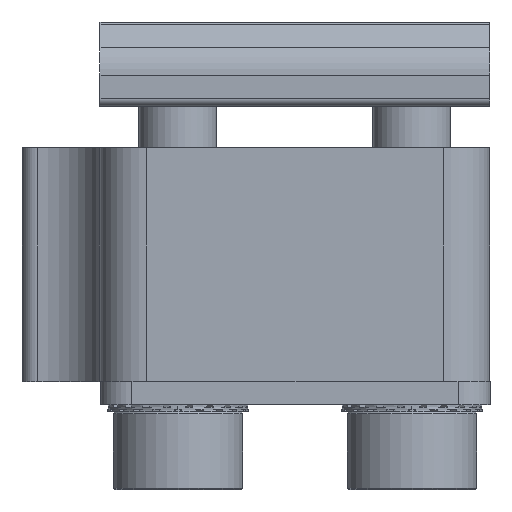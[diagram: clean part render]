
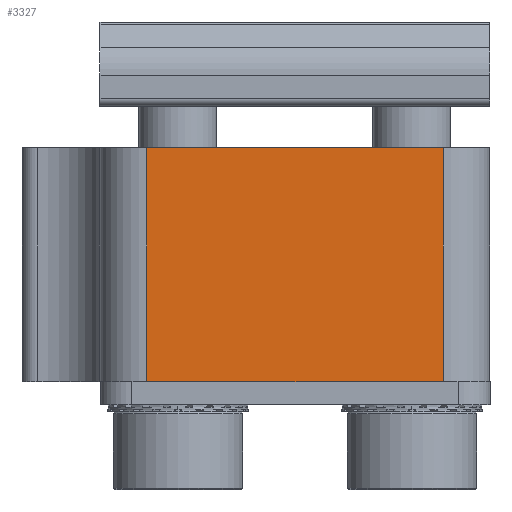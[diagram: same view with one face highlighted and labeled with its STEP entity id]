
A CAD part, front view. The second image highlights one B-rep face of the part: STEP entity #3327.
In plain terms, the highlighted planar face has unit normal (0, -1, 0).
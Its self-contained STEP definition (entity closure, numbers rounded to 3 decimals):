
#708 = DIRECTION ( 'NONE',  ( 0., 0., -1. ) ) ;
#1097 = VECTOR ( 'NONE', #7806, 1000. ) ;
#1102 = CARTESIAN_POINT ( 'NONE',  ( -60.275, -31.723, 16.523 ) ) ;
#1180 = LINE ( 'NONE', #1288, #7325 ) ;
#1288 = CARTESIAN_POINT ( 'NONE',  ( -60.275, -31.723, 31.523 ) ) ;
#1499 = CARTESIAN_POINT ( 'NONE',  ( -57.275, -31.723, 16.523 ) ) ;
#1844 = AXIS2_PLACEMENT_3D ( 'NONE', #5617, #6096, #8895 ) ;
#2285 = CARTESIAN_POINT ( 'NONE',  ( -79.275, -31.723, 16.523 ) ) ;
#2885 = DIRECTION ( 'NONE',  ( 0., 0., 1. ) ) ;
#2961 = ORIENTED_EDGE ( 'NONE', *, *, #4005, .T. ) ;
#3265 = CARTESIAN_POINT ( 'NONE',  ( -57.275, -31.723, 31.523 ) ) ;
#3327 = ADVANCED_FACE ( 'NONE', ( #4083 ), #9335, .T. ) ;
#3531 = EDGE_CURVE ( 'NONE', #9349, #9729, #7738, .T. ) ;
#4005 = EDGE_CURVE ( 'NONE', #6245, #7747, #10122, .T. ) ;
#4083 = FACE_OUTER_BOUND ( 'NONE', #9391, .T. ) ;
#4742 = DIRECTION ( 'NONE',  ( -1., 0., 0. ) ) ;
#5617 = CARTESIAN_POINT ( 'NONE',  ( -57.275, -31.723, 31.523 ) ) ;
#5833 = VECTOR ( 'NONE', #4742, 1000. ) ;
#6096 = DIRECTION ( 'NONE',  ( 0., -1., 0. ) ) ;
#6245 = VERTEX_POINT ( 'NONE', #8341 ) ;
#6385 = EDGE_CURVE ( 'NONE', #9349, #6245, #1180, .T. ) ;
#6676 = VECTOR ( 'NONE', #708, 1000. ) ;
#6932 = LINE ( 'NONE', #2285, #6676 ) ;
#7325 = VECTOR ( 'NONE', #2885, 1000. ) ;
#7738 = LINE ( 'NONE', #1499, #1097 ) ;
#7747 = VERTEX_POINT ( 'NONE', #8302 ) ;
#7806 = DIRECTION ( 'NONE',  ( -1., 0., 0. ) ) ;
#8302 = CARTESIAN_POINT ( 'NONE',  ( -79.275, -31.723, 31.523 ) ) ;
#8341 = CARTESIAN_POINT ( 'NONE',  ( -60.275, -31.723, 31.523 ) ) ;
#8865 = CARTESIAN_POINT ( 'NONE',  ( -79.275, -31.723, 16.523 ) ) ;
#8895 = DIRECTION ( 'NONE',  ( 0., 0., -1. ) ) ;
#9010 = EDGE_CURVE ( 'NONE', #7747, #9729, #6932, .T. ) ;
#9335 = PLANE ( 'NONE',  #1844 ) ;
#9349 = VERTEX_POINT ( 'NONE', #1102 ) ;
#9391 = EDGE_LOOP ( 'NONE', ( #2961, #10342, #9768, #10150 ) ) ;
#9729 = VERTEX_POINT ( 'NONE', #8865 ) ;
#9768 = ORIENTED_EDGE ( 'NONE', *, *, #3531, .F. ) ;
#10122 = LINE ( 'NONE', #3265, #5833 ) ;
#10150 = ORIENTED_EDGE ( 'NONE', *, *, #6385, .T. ) ;
#10342 = ORIENTED_EDGE ( 'NONE', *, *, #9010, .T. ) ;
